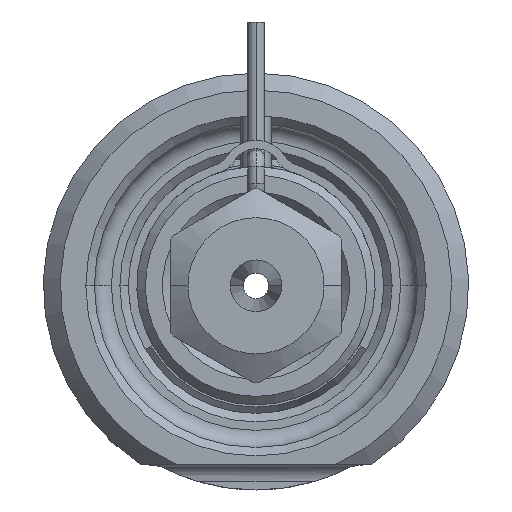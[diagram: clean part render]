
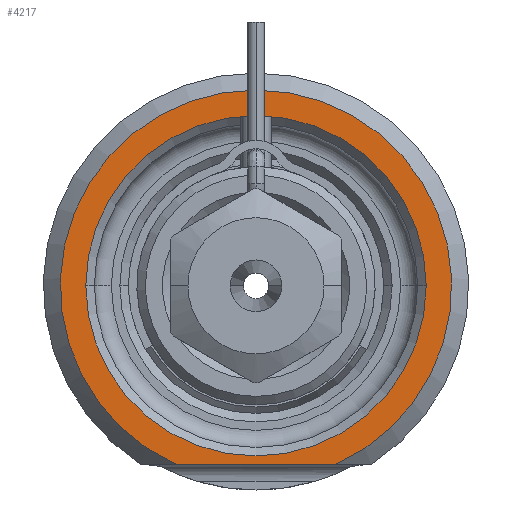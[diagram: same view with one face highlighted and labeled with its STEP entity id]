
A CAD part, front view. The second image highlights one B-rep face of the part: STEP entity #4217.
In plain terms, the highlighted planar face has unit normal (0, -1, 0).
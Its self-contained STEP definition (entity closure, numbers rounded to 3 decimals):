
#1341=CARTESIAN_POINT('',(0.,0.,0.));
#1342=DIRECTION('',(0.,-1.,0.));
#1343=DIRECTION('',(0.408,0.,-0.913));
#1344=AXIS2_PLACEMENT_3D('',#1341,#1342,#1343);
#1365=DIRECTION('',(1.,0.,0.));
#1366=VECTOR('',#1365,9.381);
#1367=CARTESIAN_POINT('',(-4.69,0.,-10.5));
#1368=LINE('',#1367,#1366);
#1369=CARTESIAN_POINT('',(0.,0.,0.));
#1370=DIRECTION('',(0.,1.,0.));
#1371=DIRECTION('',(-1.,0.,0.));
#1372=AXIS2_PLACEMENT_3D('',#1369,#1370,#1371);
#1374=CARTESIAN_POINT('',(0.,0.,0.));
#1375=DIRECTION('',(0.,1.,0.));
#1376=DIRECTION('',(1.,0.,0.));
#1377=AXIS2_PLACEMENT_3D('',#1374,#1375,#1376);
#2304=CARTESIAN_POINT('',(-10.,0.,0.));
#2305=CARTESIAN_POINT('',(10.,0.,0.));
#2306=VERTEX_POINT('',#2304);
#2307=VERTEX_POINT('',#2305);
#2348=CARTESIAN_POINT('',(-4.69,0.,-10.5));
#2349=CARTESIAN_POINT('',(4.69,0.,-10.5));
#2350=VERTEX_POINT('',#2348);
#2351=VERTEX_POINT('',#2349);
#4202=CARTESIAN_POINT('',(0.,0.,0.));
#4203=DIRECTION('',(0.,-1.,0.));
#4204=DIRECTION('',(1.,0.,0.));
#4205=AXIS2_PLACEMENT_3D('',#4202,#4203,#4204);
#4206=PLANE('',#4205);
#4207=ORIENTED_EDGE('',*,*,#4137,.F.);
#4208=ORIENTED_EDGE('',*,*,#4194,.F.);
#4209=EDGE_LOOP('',(#4207,#4208));
#4210=FACE_OUTER_BOUND('',#4209,.F.);
#4212=ORIENTED_EDGE('',*,*,#4211,.F.);
#4214=ORIENTED_EDGE('',*,*,#4213,.F.);
#4215=EDGE_LOOP('',(#4212,#4214));
#4216=FACE_BOUND('',#4215,.F.);
#4217=ADVANCED_FACE('',(#4210,#4216),#4206,.T.);
#1345=CIRCLE('',#1344,11.5);
#1373=CIRCLE('',#1372,10.);
#1378=CIRCLE('',#1377,10.);
#4137=EDGE_CURVE('',#2350,#2351,#1368,.T.);
#4194=EDGE_CURVE('',#2351,#2350,#1345,.T.);
#4211=EDGE_CURVE('',#2306,#2307,#1373,.T.);
#4213=EDGE_CURVE('',#2307,#2306,#1378,.T.);
